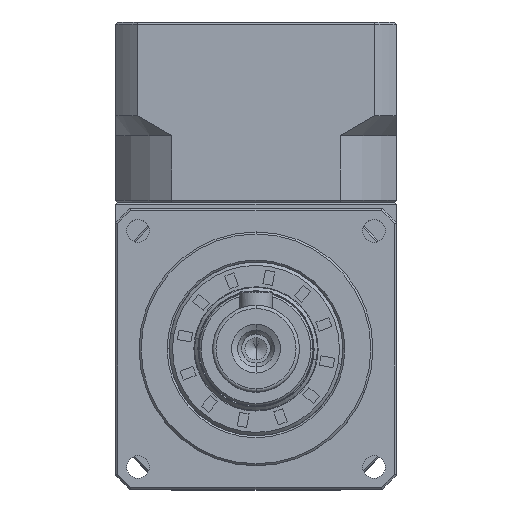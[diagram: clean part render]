
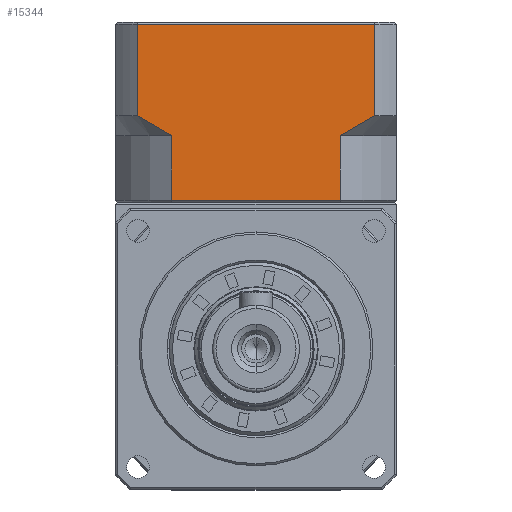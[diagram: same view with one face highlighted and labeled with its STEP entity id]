
A CAD part, top view. The second image highlights one B-rep face of the part: STEP entity #15344.
In plain terms, the highlighted planar face has unit normal (0, 0, 1).
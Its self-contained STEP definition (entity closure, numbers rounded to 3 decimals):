
#3265 = EDGE_CURVE ( 'NONE', #61781, #21549, #13062, .T. ) ;
#5319 = DIRECTION ( 'NONE',  ( -1., 0., 0. ) ) ;
#7855 = LINE ( 'NONE', #72735, #44359 ) ;
#8535 = VERTEX_POINT ( 'NONE', #70325 ) ;
#9851 = CARTESIAN_POINT ( 'NONE',  ( -28.684, 36.79, 14.75 ) ) ;
#10003 = B_SPLINE_CURVE_WITH_KNOTS ( 'NONE', 3,
 ( #50381, #34597, #85841, #41952 ),
 .UNSPECIFIED., .F., .F.,
 ( 4, 4 ),
 ( 0., 0.006 ),
 .UNSPECIFIED. ) ;
#10242 = ORIENTED_EDGE ( 'NONE', *, *, #20155, .T. ) ;
#12467 = B_SPLINE_CURVE_WITH_KNOTS ( 'NONE', 3,
 ( #82993, #9851, #17142, #90308 ),
 .UNSPECIFIED., .F., .F.,
 ( 4, 4 ),
 ( 0., 0.006 ),
 .UNSPECIFIED. ) ;
#13062 = LINE ( 'NONE', #78616, #51863 ) ;
#14169 = VERTEX_POINT ( 'NONE', #56375 ) ;
#15344 = ADVANCED_FACE ( 'NONE', ( #87660 ), #72721, .T. ) ;
#15689 = CARTESIAN_POINT ( 'NONE',  ( 5.159, 37.867, 14.75 ) ) ;
#17142 = CARTESIAN_POINT ( 'NONE',  ( -26.981, 35.776, 14.75 ) ) ;
#18507 = VERTEX_POINT ( 'NONE', #65121 ) ;
#18861 = ORIENTED_EDGE ( 'NONE', *, *, #48786, .F. ) ;
#20077 = DIRECTION ( 'NONE',  ( 0., -1., 0. ) ) ;
#20155 = EDGE_CURVE ( 'NONE', #28269, #74383, #12467, .T. ) ;
#20548 = CARTESIAN_POINT ( 'NONE',  ( 5.159, 51.567, 14.75 ) ) ;
#21549 = VERTEX_POINT ( 'NONE', #20548 ) ;
#23669 = EDGE_LOOP ( 'NONE', ( #36947, #10242, #39201, #47878, #18861, #73217, #34485, #26154 ) ) ;
#26154 = ORIENTED_EDGE ( 'NONE', *, *, #38343, .T. ) ;
#27720 = DIRECTION ( 'NONE',  ( 0., 1., 0. ) ) ;
#28269 = VERTEX_POINT ( 'NONE', #70921 ) ;
#28395 = EDGE_CURVE ( 'NONE', #93874, #61781, #10003, .T. ) ;
#28728 = CARTESIAN_POINT ( 'NONE',  ( 0.023, 4.702, 14.75 ) ) ;
#29171 = DIRECTION ( 'NONE',  ( 0., 0., 1. ) ) ;
#30879 = LINE ( 'NONE', #28728, #67587 ) ;
#34485 = ORIENTED_EDGE ( 'NONE', *, *, #3265, .T. ) ;
#34597 = CARTESIAN_POINT ( 'NONE',  ( 1.788, 35.776, 14.75 ) ) ;
#35047 = DIRECTION ( 'NONE',  ( 0., -1., 0. ) ) ;
#36065 = DIRECTION ( 'NONE',  ( 0., -1., 0. ) ) ;
#36947 = ORIENTED_EDGE ( 'NONE', *, *, #56167, .T. ) ;
#38343 = EDGE_CURVE ( 'NONE', #21549, #18507, #7855, .T. ) ;
#39201 = ORIENTED_EDGE ( 'NONE', *, *, #53455, .T. ) ;
#41952 = CARTESIAN_POINT ( 'NONE',  ( 5.159, 37.867, 14.75 ) ) ;
#44359 = VECTOR ( 'NONE', #80376, 1000. ) ;
#47878 = ORIENTED_EDGE ( 'NONE', *, *, #78353, .F. ) ;
#48786 = EDGE_CURVE ( 'NONE', #93874, #8535, #30879, .T. ) ;
#49742 = CARTESIAN_POINT ( 'NONE',  ( -25.216, 34.867, 14.75 ) ) ;
#50381 = CARTESIAN_POINT ( 'NONE',  ( 0.023, 34.867, 14.75 ) ) ;
#51863 = VECTOR ( 'NONE', #27720, 1000. ) ;
#52182 = AXIS2_PLACEMENT_3D ( 'NONE', #73015, #29171, #80351 ) ;
#53455 = EDGE_CURVE ( 'NONE', #74383, #14169, #55710, .T. ) ;
#55710 = LINE ( 'NONE', #63931, #92255 ) ;
#56167 = EDGE_CURVE ( 'NONE', #18507, #28269, #82564, .T. ) ;
#56375 = CARTESIAN_POINT ( 'NONE',  ( -25.216, 25.167, 14.75 ) ) ;
#56457 = CARTESIAN_POINT ( 'NONE',  ( 8.404, 25.167, 14.75 ) ) ;
#56533 = CARTESIAN_POINT ( 'NONE',  ( -30.352, 24.867, 14.75 ) ) ;
#61781 = VERTEX_POINT ( 'NONE', #15689 ) ;
#63143 = VECTOR ( 'NONE', #20077, 1000. ) ;
#63931 = CARTESIAN_POINT ( 'NONE',  ( -25.216, 24.867, 14.75 ) ) ;
#65121 = CARTESIAN_POINT ( 'NONE',  ( -30.352, 51.567, 14.75 ) ) ;
#67587 = VECTOR ( 'NONE', #36065, 1000. ) ;
#70325 = CARTESIAN_POINT ( 'NONE',  ( 0.023, 25.167, 14.75 ) ) ;
#70921 = CARTESIAN_POINT ( 'NONE',  ( -30.352, 37.867, 14.75 ) ) ;
#72721 = PLANE ( 'NONE',  #52182 ) ;
#72735 = CARTESIAN_POINT ( 'NONE',  ( 8.404, 51.567, 14.75 ) ) ;
#73015 = CARTESIAN_POINT ( 'NONE',  ( 8.404, 24.867, 14.75 ) ) ;
#73217 = ORIENTED_EDGE ( 'NONE', *, *, #28395, .T. ) ;
#74383 = VERTEX_POINT ( 'NONE', #49742 ) ;
#74949 = LINE ( 'NONE', #56457, #94270 ) ;
#78353 = EDGE_CURVE ( 'NONE', #8535, #14169, #74949, .T. ) ;
#78616 = CARTESIAN_POINT ( 'NONE',  ( 5.159, 24.867, 14.75 ) ) ;
#80351 = DIRECTION ( 'NONE',  ( -1., 0., 0. ) ) ;
#80376 = DIRECTION ( 'NONE',  ( -1., 0., 0. ) ) ;
#82156 = CARTESIAN_POINT ( 'NONE',  ( 0.023, 34.867, 14.75 ) ) ;
#82564 = LINE ( 'NONE', #56533, #63143 ) ;
#82993 = CARTESIAN_POINT ( 'NONE',  ( -30.352, 37.867, 14.75 ) ) ;
#85841 = CARTESIAN_POINT ( 'NONE',  ( 3.492, 36.79, 14.75 ) ) ;
#87660 = FACE_OUTER_BOUND ( 'NONE', #23669, .T. ) ;
#90308 = CARTESIAN_POINT ( 'NONE',  ( -25.216, 34.867, 14.75 ) ) ;
#92255 = VECTOR ( 'NONE', #35047, 1000. ) ;
#93874 = VERTEX_POINT ( 'NONE', #82156 ) ;
#94270 = VECTOR ( 'NONE', #5319, 1000. ) ;
